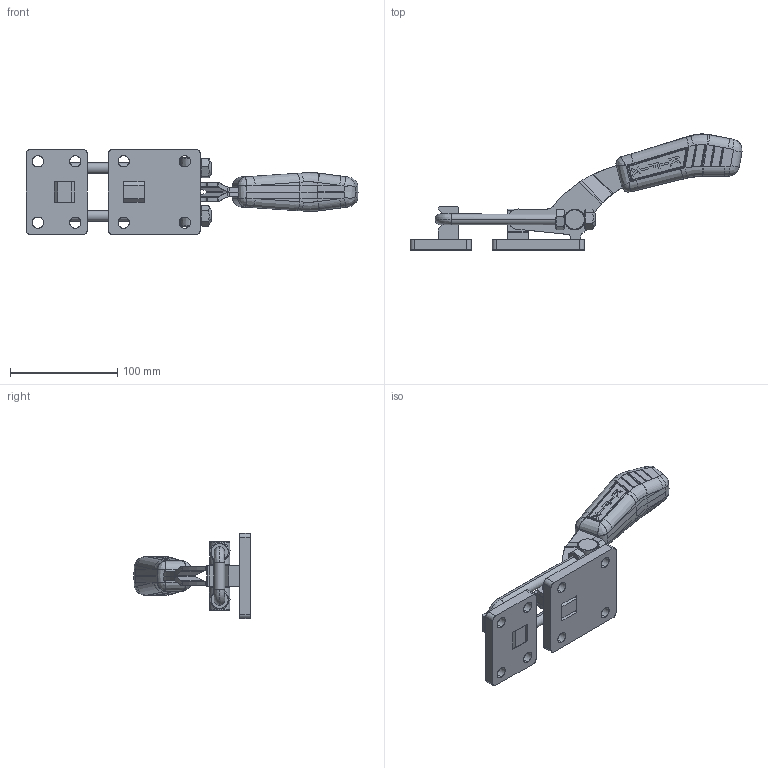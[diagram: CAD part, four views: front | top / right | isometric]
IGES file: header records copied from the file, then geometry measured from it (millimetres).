
Start section: SolidWorks IGES file using analytic representation for surfaces
Global section: file name: C:\Projetos\Grampos\KF-375\KF-375\KF-375.IGS; native system: SolidWorks 2018; preprocessor: SolidWorks 2018; author: Ricardo; date: 180619.110453; units: millimetre
Bounding box: 310.07 x 108.49 x 79.5 mm (x, y, z)
Surface area: 101628.7 mm2 (no closed solid volume)
Topology: 0 solids, 0 shells, 676 faces, 7631 edges, 7613 vertices
Faces by surface type: bspline 390, revolution 286
